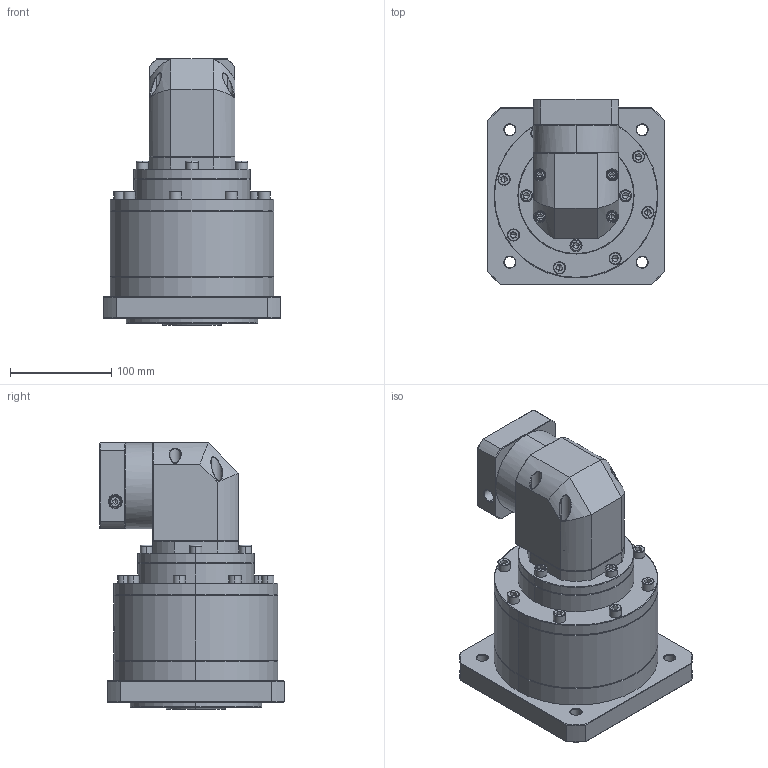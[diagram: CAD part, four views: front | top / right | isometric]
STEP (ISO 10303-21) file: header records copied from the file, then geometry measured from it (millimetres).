
FILE_DESCRIPTION (( 'STEP AP214' ), '1' );
FILE_NAME ('ZFR160A-35-L3-P2-19-70-90-M6.step', '2023-09-03T10:04:03', ( '' ), ( '' ), 'SwSTEP 2.0', 'SolidWorks 2016', '' );
FILE_SCHEMA (( 'AUTOMOTIVE_DESIGN' ));
Length unit declared in the file: millimetre
Products named in the file (1): ZFR160A-35-L3-P2-19-70-90-M6
Bounding box: 175 x 182.6 x 263.2 mm (x, y, z)
Volume: 3826761.6 mm3; surface area: 265058 mm2
Topology: 6 solids, 6 shells, 2542 faces, 6622 edges, 4207 vertices
Faces by surface type: plane 1233, cylinder 481, bspline 414, cone 356, torus 58
Entity records: 132289 total; most frequent: CARTESIAN_POINT 47199, ORIENTED_EDGE 13108, DIRECTION 10161, EDGE_CURVE 6554, VERTEX_POINT 4207, VECTOR 3561, LINE 3561, AXIS2_PLACEMENT_3D 3300
